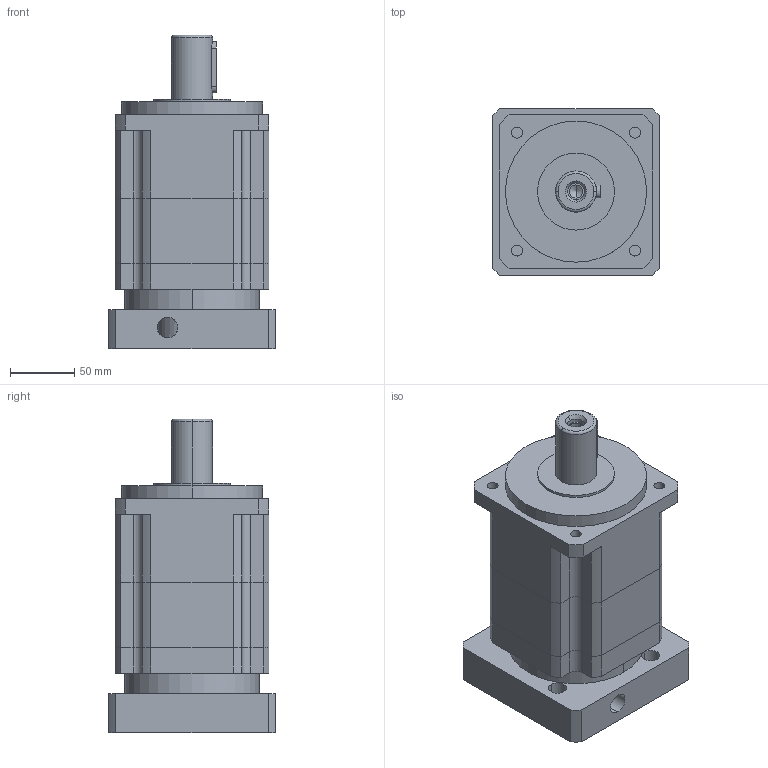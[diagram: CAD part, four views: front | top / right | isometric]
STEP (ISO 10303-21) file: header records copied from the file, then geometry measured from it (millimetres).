
FILE_DESCRIPTION (( 'STEP AP203' ), '1' );
FILE_NAME ('PAG120-L2-22-110-145.STEP', '2022-07-18T08:40:55', ( 'Windows User' ), ( 'P R C' ), 'SwSTEP 2.0', 'SolidWorks 2016', '' );
FILE_SCHEMA (( 'CONFIG_CONTROL_DESIGN' ));
Length unit declared in the file: millimetre
Products named in the file (8): PAG120-L2-22-110-145; PAG120齿圈_1; PAG120薊粣ん_22_1; PAG120帣釱22-110-145_1; 囀鞠褒蹟佪-M8℅25_1; 邧埴瑩 10x8x40_1; 粣創-6009 45x75x16_1; PAG120-二级齿圈_1
Assembly tree (7 placements, depth 2):
  PAG120-L2-22-110-145
    PAG120齿圈_1
    PAG120薊粣ん_22_1
    PAG120帣釱22-110-145_1
    囀鞠褒蹟佪-M8℅25_1
    邧埴瑩 10x8x40_1
    粣創-6009 45x75x16_1
    PAG120-二级齿圈_1
Bounding box: 130 x 130 x 244.5 mm (x, y, z)
Volume: 2301661 mm3; surface area: 262276.3 mm2
Topology: 7 solids, 7 shells, 1038 faces, 2908 edges, 1921 vertices
Faces by surface type: plane 576, cylinder 177, bspline 136, sphere 83, torus 50, cone 16
Entity records: 43905 total; most frequent: CARTESIAN_POINT 17419, ORIENTED_EDGE 5712, DIRECTION 4705, EDGE_CURVE 2856, VERTEX_POINT 1892, LINE 1669, VECTOR 1669, AXIS2_PLACEMENT_3D 1518
